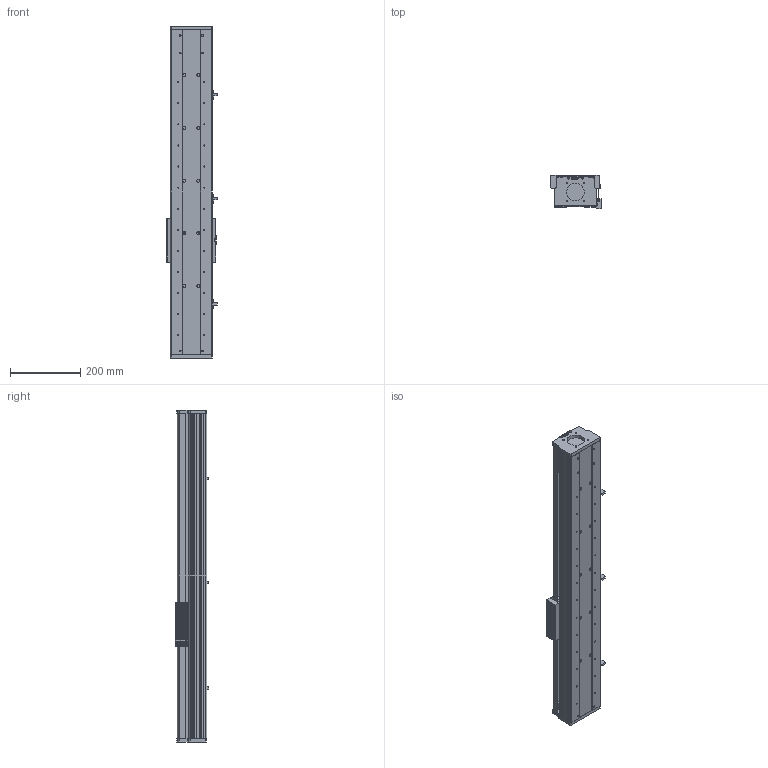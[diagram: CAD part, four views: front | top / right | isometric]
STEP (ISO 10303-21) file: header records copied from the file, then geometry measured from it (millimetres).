
FILE_DESCRIPTION (( 'STEP AP214' ), '1' );
FILE_NAME ('CF120B-C-650-FW.STEP', '2020-07-15T01:59:08', ( '微软用户' ), ( '微软中国' ), 'SwSTEP 2.0', 'SolidWorks 2016', '' );
FILE_SCHEMA (( 'AUTOMOTIVE_DESIGN' ));
Length unit declared in the file: millimetre
Products named in the file (12): CF120B臏倰第-650; CF120B-C-650-FW; 嫖萇羲壽; 75-86-95癹弇羲壽覜茼え; 120B珨极嘐隅釱; CF120-2耜啣; CF120-2盓厥釱; CF120B裔啣-650; CF120-2-2賑雄啣; CF120-2-1賑雄輸; EGR15絳寢-650; EGH-15-CABZnew
Assembly tree (17 placements, depth 2):
  CF120B-C-650-FW
    CF120B臏倰第-650
    EGH-15-CABZnew  x4
    EGR15絳寢-650  x2
    CF120-2-1賑雄輸
    CF120-2-2賑雄啣
    CF120B裔啣-650
    CF120-2盓厥釱
    CF120-2耜啣
    120B珨极嘐隅釱
    75-86-95癹弇羲壽覜茼え
    嫖萇羲壽  x3
Bounding box: 143.6 x 94.1 x 945 mm (x, y, z)
Volume: 3813026.4 mm3; surface area: 1390294 mm2
Topology: 13 solids, 65 shells, 7543 faces, 28307 edges, 19470 vertices
Faces by surface type: plane 3667, bspline 2474, cylinder 1046, cone 132, torus 128, sphere 96
Entity records: 145019 total; most frequent: CARTESIAN_POINT 51372, ORIENTED_EDGE 16546, DIRECTION 12720, EDGE_CURVE 9397, VERTEX_POINT 6424, VECTOR 5484, LINE 5484, AXIS2_PLACEMENT_3D 3618
